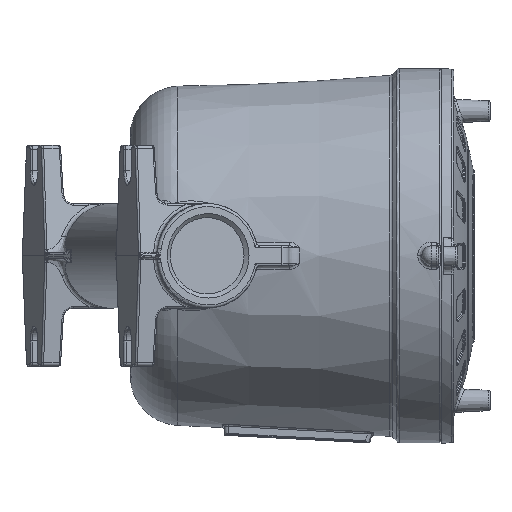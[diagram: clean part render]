
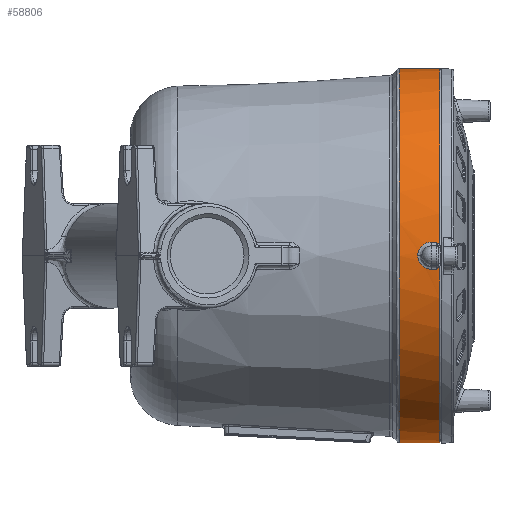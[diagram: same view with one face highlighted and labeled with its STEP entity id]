
A CAD part, front view. The second image highlights one B-rep face of the part: STEP entity #58806.
In plain terms, the highlighted cylindrical face has radius 93 mm (diameter 186 mm), a partial arc.
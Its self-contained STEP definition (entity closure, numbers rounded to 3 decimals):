
#58099=CARTESIAN_POINT('',(24.,92.973,-2.226));
#58100=VERTEX_POINT('',#58099);
#58108=CARTESIAN_POINT('',(14.705,92.973,-2.226));
#58109=VERTEX_POINT('',#58108);
#58110=CARTESIAN_POINT('',(24.,92.973,-2.226));
#58111=DIRECTION('',(-1.0,0.0,0.0));
#58112=VECTOR('',#58111,9.295);
#58113=LINE('',#58110,#58112);
#58114=EDGE_CURVE('',#58109,#58100,#58113,.F.);
#58648=CARTESIAN_POINT('',(12.5,0.0,0.0));
#58649=DIRECTION('',(1.0,0.0,0.0));
#58650=DIRECTION('',(0.0,1.0,0.0));
#58651=AXIS2_PLACEMENT_3D('',#58648,#58649,#58650);
#58652=CYLINDRICAL_SURFACE('',#58651,93.0);
#58653=CARTESIAN_POINT('',(24.,-92.838,-5.492));
#58654=VERTEX_POINT('',#58653);
#58655=CARTESIAN_POINT('',(24.,0.0,0.0));
#58656=DIRECTION('',(1.0,0.0,0.0));
#58657=DIRECTION('',(0.0,1.0,0.0));
#58658=AXIS2_PLACEMENT_3D('',#58655,#58656,#58657);
#58659=CIRCLE('',#58658,93.0);
#58660=EDGE_CURVE('',#58654,#58100,#58659,.T.);
#58661=ORIENTED_EDGE('',*,*,#58660,.F.);
#58662=CARTESIAN_POINT('',(22.5,-92.75,-6.814));
#58663=VERTEX_POINT('',#58662);
#58664=CARTESIAN_POINT('',(24.,-92.838,-5.492));
#58665=CARTESIAN_POINT('',(23.568,-92.802,-6.087));
#58666=CARTESIAN_POINT('',(23.1,-92.781,-6.392));
#58667=CARTESIAN_POINT('',(22.687,-92.76,-6.683));
#58668=CARTESIAN_POINT('',(22.625,-92.756,-6.727));
#58669=CARTESIAN_POINT('',(22.562,-92.753,-6.77));
#58670=CARTESIAN_POINT('',(22.5,-92.75,-6.814));
#58671=B_SPLINE_CURVE_WITH_KNOTS('',3,(#58664,#58665,#58666,#58667,#58668,#58669,#58670),.UNSPECIFIED.,.F.,.U.,(4,3,4),(7.282,10.365,10.83),.UNSPECIFIED.);
#58672=EDGE_CURVE('',#58663,#58654,#58671,.F.);
#58673=ORIENTED_EDGE('',*,*,#58672,.F.);
#58674=CARTESIAN_POINT('',(20.,-92.75,-6.814));
#58675=VERTEX_POINT('',#58674);
#58676=CARTESIAN_POINT('',(20.,-92.75,-6.814));
#58677=DIRECTION('',(1.0,0.0,0.0));
#58678=VECTOR('',#58677,2.5);
#58679=LINE('',#58676,#58678);
#58680=EDGE_CURVE('',#58675,#58663,#58679,.T.);
#58681=ORIENTED_EDGE('',*,*,#58680,.F.);
#58682=CARTESIAN_POINT('',(13.072,-93.,0.));
#58683=VERTEX_POINT('',#58682);
#58684=CARTESIAN_POINT('',(20.,-92.75,-6.814));
#58685=CARTESIAN_POINT('',(18.669,-92.75,-6.814));
#58686=CARTESIAN_POINT('',(17.341,-92.78,-6.427));
#58687=CARTESIAN_POINT('',(16.223,-92.824,-5.714));
#58688=CARTESIAN_POINT('',(15.472,-92.854,-5.233));
#58689=CARTESIAN_POINT('',(14.816,-92.889,-4.605));
#58690=CARTESIAN_POINT('',(14.31,-92.919,-3.889));
#58691=CARTESIAN_POINT('',(14.049,-92.934,-3.52));
#58692=CARTESIAN_POINT('',(13.828,-92.948,-3.127));
#58693=CARTESIAN_POINT('',(13.655,-92.96,-2.739));
#58694=CARTESIAN_POINT('',(13.432,-92.974,-2.237));
#58695=CARTESIAN_POINT('',(13.297,-92.984,-1.76));
#58696=CARTESIAN_POINT('',(13.221,-92.989,-1.407));
#58697=CARTESIAN_POINT('',(13.115,-92.997,-0.913));
#58698=CARTESIAN_POINT('',(13.099,-92.998,-0.642));
#58699=CARTESIAN_POINT('',(13.084,-92.999,-0.413));
#58700=CARTESIAN_POINT('',(13.075,-93.,-0.261));
#58701=CARTESIAN_POINT('',(13.072,-93.,-0.131));
#58702=CARTESIAN_POINT('',(13.072,-93.,0.));
#58703=B_SPLINE_CURVE_WITH_KNOTS('',3,(#58684,#58685,#58686,#58687,#58688,#58689,#58690,#58691,#58692,#58693,#58694,#58695,#58696,#58697,#58698,#58699,#58700,#58701,#58702),.UNSPECIFIED.,.F.,.U.,(4,3,3,3,3,3,4),(31.714,36.62,39.919,41.621,43.821,46.891,48.93),.UNSPECIFIED.);
#58704=EDGE_CURVE('',#58683,#58675,#58703,.F.);
#58705=ORIENTED_EDGE('',*,*,#58704,.F.);
#58706=CARTESIAN_POINT('',(20.,-92.75,6.814));
#58707=VERTEX_POINT('',#58706);
#58708=CARTESIAN_POINT('',(13.072,-93.0,0.));
#58709=CARTESIAN_POINT('',(13.072,-93.0,0.086));
#58710=CARTESIAN_POINT('',(13.073,-93.,0.172));
#58711=CARTESIAN_POINT('',(13.076,-93.,0.262));
#58712=CARTESIAN_POINT('',(13.085,-92.999,0.462));
#58713=CARTESIAN_POINT('',(13.107,-92.997,0.708));
#58714=CARTESIAN_POINT('',(13.123,-92.996,0.856));
#58715=CARTESIAN_POINT('',(13.174,-92.993,1.224));
#58716=CARTESIAN_POINT('',(13.298,-92.984,1.764));
#58717=CARTESIAN_POINT('',(13.391,-92.977,2.096));
#58718=CARTESIAN_POINT('',(13.596,-92.963,2.65));
#58719=CARTESIAN_POINT('',(13.882,-92.945,3.212));
#58720=CARTESIAN_POINT('',(13.997,-92.938,3.415));
#58721=CARTESIAN_POINT('',(14.263,-92.921,3.843));
#58722=CARTESIAN_POINT('',(14.573,-92.903,4.25));
#58723=CARTESIAN_POINT('',(14.75,-92.893,4.461));
#58724=CARTESIAN_POINT('',(15.302,-92.864,5.052));
#58725=CARTESIAN_POINT('',(15.94,-92.834,5.561));
#58726=CARTESIAN_POINT('',(16.392,-92.816,5.854));
#58727=CARTESIAN_POINT('',(17.35,-92.783,6.352));
#58728=CARTESIAN_POINT('',(18.388,-92.761,6.659));
#58729=CARTESIAN_POINT('',(18.92,-92.754,6.762));
#58730=CARTESIAN_POINT('',(19.46,-92.75,6.814));
#58731=CARTESIAN_POINT('',(20.,-92.75,6.814));
#58732=B_SPLINE_CURVE_WITH_KNOTS('',5,(#58708,#58709,#58710,#58711,#58712,#58713,#58714,#58715,#58716,#58717,#58718,#58719,#58720,#58721,#58722,#58723,#58724,#58725,#58726,#58727,#58728,#58729,#58730,#58731),.UNSPECIFIED.,.F.,.U.,(6,3,3,3,3,3,3,6),(48.93,51.173,53.728,56.328,57.808,59.517,62.822,66.138),.UNSPECIFIED.);
#58733=EDGE_CURVE('',#58707,#58683,#58732,.F.);
#58734=ORIENTED_EDGE('',*,*,#58733,.F.);
#58735=CARTESIAN_POINT('',(22.5,-92.75,6.814));
#58736=VERTEX_POINT('',#58735);
#58737=CARTESIAN_POINT('',(20.,-92.75,6.814));
#58738=DIRECTION('',(1.0,0.0,0.0));
#58739=VECTOR('',#58738,2.5);
#58740=LINE('',#58737,#58739);
#58741=EDGE_CURVE('',#58736,#58707,#58740,.F.);
#58742=ORIENTED_EDGE('',*,*,#58741,.F.);
#58743=CARTESIAN_POINT('',(24.,-92.838,5.492));
#58744=VERTEX_POINT('',#58743);
#58745=CARTESIAN_POINT('',(22.5,-92.75,6.814));
#58746=CARTESIAN_POINT('',(22.914,-92.771,6.526));
#58747=CARTESIAN_POINT('',(23.353,-92.791,6.253));
#58748=CARTESIAN_POINT('',(23.802,-92.823,5.739));
#58749=CARTESIAN_POINT('',(23.869,-92.827,5.663));
#58750=CARTESIAN_POINT('',(23.935,-92.832,5.581));
#58751=CARTESIAN_POINT('',(24.,-92.838,5.492));
#58752=B_SPLINE_CURVE_WITH_KNOTS('',3,(#58745,#58746,#58747,#58748,#58749,#58750,#58751),.UNSPECIFIED.,.F.,.U.,(4,3,4),(0.,3.087,3.548),.UNSPECIFIED.);
#58753=EDGE_CURVE('',#58744,#58736,#58752,.F.);
#58754=ORIENTED_EDGE('',*,*,#58753,.F.);
#58755=CARTESIAN_POINT('',(24.,92.973,2.226));
#58756=VERTEX_POINT('',#58755);
#58757=CARTESIAN_POINT('',(24.,0.0,0.0));
#58758=DIRECTION('',(1.0,0.0,0.0));
#58759=DIRECTION('',(0.0,1.0,0.0));
#58760=AXIS2_PLACEMENT_3D('',#58757,#58758,#58759);
#58761=CIRCLE('',#58760,93.0);
#58762=EDGE_CURVE('',#58756,#58744,#58761,.T.);
#58763=ORIENTED_EDGE('',*,*,#58762,.F.);
#58764=CARTESIAN_POINT('',(14.705,92.973,2.226));
#58765=VERTEX_POINT('',#58764);
#58766=CARTESIAN_POINT('',(14.705,92.973,2.226));
#58767=DIRECTION('',(1.0,0.0,0.0));
#58768=VECTOR('',#58767,9.295);
#58769=LINE('',#58766,#58768);
#58770=EDGE_CURVE('',#58765,#58756,#58769,.T.);
#58771=ORIENTED_EDGE('',*,*,#58770,.F.);
#58772=CARTESIAN_POINT('',(3.828,86.942,33.016));
#58773=VERTEX_POINT('',#58772);
#58774=CARTESIAN_POINT('',(14.705,92.973,2.226));
#58775=CARTESIAN_POINT('',(14.431,92.812,8.967));
#58776=CARTESIAN_POINT('',(12.893,91.892,15.616));
#58777=CARTESIAN_POINT('',(10.304,90.437,21.685));
#58778=CARTESIAN_POINT('',(8.576,89.465,25.735));
#58779=CARTESIAN_POINT('',(6.389,88.264,29.535));
#58780=CARTESIAN_POINT('',(3.828,86.942,33.016));
#58781=B_SPLINE_CURVE_WITH_KNOTS('',3,(#58774,#58775,#58776,#58777,#58778,#58779,#58780),.UNSPECIFIED.,.F.,.U.,(4,3,4),(3.107,31.359,50.214),.UNSPECIFIED.);
#58782=EDGE_CURVE('',#58765,#58773,#58781,.T.);
#58783=ORIENTED_EDGE('',*,*,#58782,.T.);
#58784=CARTESIAN_POINT('',(3.828,86.942,-33.016));
#58785=VERTEX_POINT('',#58784);
#58786=CARTESIAN_POINT('',(3.828,0.0,0.0));
#58787=DIRECTION('',(1.0,0.0,0.0));
#58788=DIRECTION('',(0.0,1.0,0.0));
#58789=AXIS2_PLACEMENT_3D('',#58786,#58787,#58788);
#58790=CIRCLE('',#58789,93.0);
#58791=EDGE_CURVE('',#58773,#58785,#58790,.T.);
#58792=ORIENTED_EDGE('',*,*,#58791,.T.);
#58793=CARTESIAN_POINT('',(14.705,92.973,-2.226));
#58794=CARTESIAN_POINT('',(14.445,92.82,-8.633));
#58795=CARTESIAN_POINT('',(13.044,91.983,-14.959));
#58796=CARTESIAN_POINT('',(10.681,90.649,-20.78));
#58797=CARTESIAN_POINT('',(8.898,89.643,-25.169));
#58798=CARTESIAN_POINT('',(6.579,88.362,-29.277));
#58799=CARTESIAN_POINT('',(3.828,86.942,-33.016));
#58800=B_SPLINE_CURVE_WITH_KNOTS('',3,(#58793,#58794,#58795,#58796,#58797,#58798,#58799),.UNSPECIFIED.,.F.,.U.,(4,3,4),(3.107,29.96,50.212),.UNSPECIFIED.);
#58801=EDGE_CURVE('',#58785,#58109,#58800,.F.);
#58802=ORIENTED_EDGE('',*,*,#58801,.T.);
#58803=ORIENTED_EDGE('',*,*,#58114,.T.);
#58804=EDGE_LOOP('',(#58661,#58673,#58681,#58705,#58734,#58742,#58754,#58763,#58771,#58783,#58792,#58802,#58803));
#58805=FACE_OUTER_BOUND('',#58804,.T.);
#58806=ADVANCED_FACE('',(#58805),#58652,.T.);
